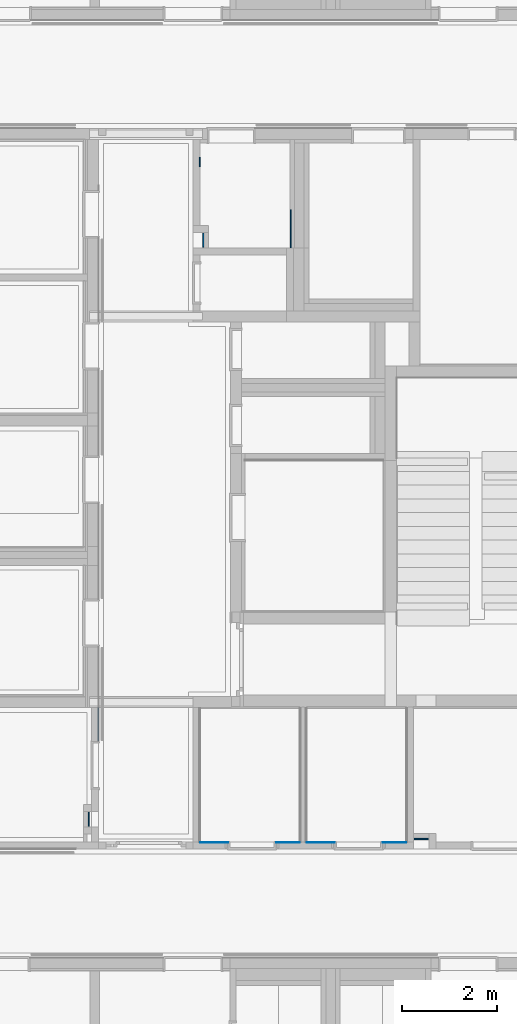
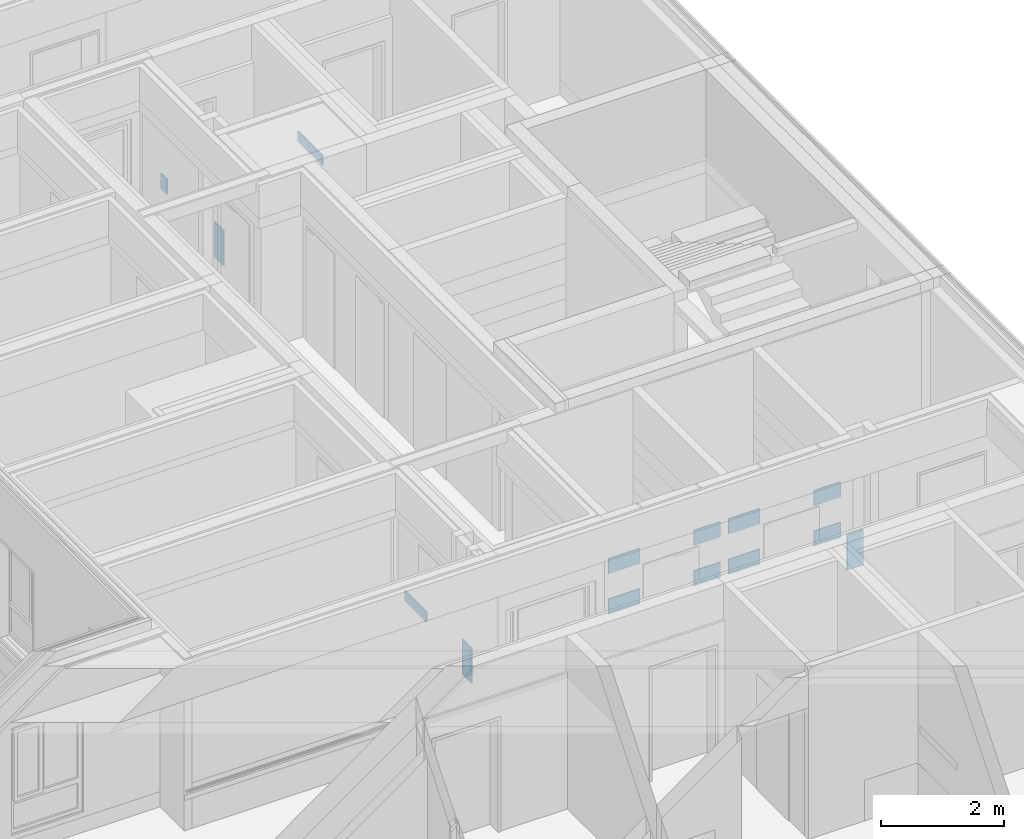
# One storey, part 157 of 207: 14 walls.
"""IFC4 building model written with IfcOpenShell, lengths in metres."""

from ifc_helpers import new_model, entity, si_unit, converted_unit, derived_unit, frame, origin, place, context, subcontext, project, spatial, faceted_brep, element, save


model = new_model("IFC4")

# Units and contexts
model_context = context("Model", 3, precision=1e-05, world=origin())
body_context = subcontext(model_context, "Body", "Model", "MODEL_VIEW")
ifc_project = project(units=[si_unit("LENGTHUNIT", "METRE"), si_unit("AREAUNIT", "SQUARE_METRE"), si_unit("VOLUMEUNIT", "CUBIC_METRE"), si_unit("MASSUNIT", "GRAM", prefix="KILO"), converted_unit("PLANEANGLEUNIT", "DEGREE", entity("IfcPlaneAngleMeasure", 0.0174532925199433), si_unit("PLANEANGLEUNIT", "RADIAN"), dimensions=[0, 0, 0, 0, 0, 0, 0]), derived_unit("THERMALTRANSMITTANCEUNIT", [(si_unit("POWERUNIT", "WATT"), 1), (si_unit("THERMODYNAMICTEMPERATUREUNIT", "KELVIN"), -1), (si_unit("LENGTHUNIT", "METRE"), -2)]), derived_unit("VOLUMETRICFLOWRATEUNIT", [(si_unit("LENGTHUNIT", "METRE"), 3), (converted_unit("TIMEUNIT", "hour", entity("IfcTimeMeasure", 3600.0), si_unit("TIMEUNIT", "SECOND"), dimensions=[0, 0, 1, 0, 0, 0, 0]), -1), (si_unit("LENGTHUNIT", "METRE"), -1)])], contexts=[model_context])

# Site, building, storey
site_placement = place(None, origin())
site = spatial("IfcSite", under=ifc_project, at=site_placement, Name="Psychiatrie Neubau Wunstorf", CompositionType="ELEMENT")
building_placement = place(site_placement, origin())
building = spatial("IfcBuilding", under=site, at=building_placement, Name="Neubau H2 Stationsgebäude", CompositionType="ELEMENT")
storey_placement = place(building_placement, frame((0.0, 0.0, -0.2)))
storey = spatial("IfcBuildingStorey", under=building, at=storey_placement, Name="H2 Ebene 0", CompositionType="ELEMENT", Elevation=-0.2)

# Walls
wall_1_placement = place(storey_placement, frame((98.2000002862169, 22.0290000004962, 1.26)))
element("IfcWall", 1, at=wall_1_placement, inside=storey, Name="WV 1.1", context=body_context, shape_type="Brep", body=[
    faceted_brep([(0.025, 0.2, 0.0), (0.0, 0.2, 0.0), (0.0, 0.0, 0.0), (0.025, 0.0, 0.0), (0.0, 0.2, 0.3), (0.025, 0.2, 0.3), (0.025, 0.0, 0.3), (0.0, 0.0, 0.3)], [[[0, 1, 2, 3]], [[4, 5, 6, 7]], [[1, 0, 5, 4]], [[2, 1, 4, 7]], [[3, 2, 7, 6]], [[0, 3, 6, 5]]], orient=[[False], [False], [False], [False], [False], [False]]),
])
wall_2_placement = place(storey_placement, frame((100.119993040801, 20.3150058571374, 2.2)))
element("IfcWall", 2, at=wall_2_placement, inside=storey, Name="WV 1.1", context=body_context, shape_type="Brep", body=[
    faceted_brep([(0.025, 0.8, 0.0), (0.0, 0.8, 0.0), (0.0, 0.0, 0.0), (0.025, 0.0, 0.0), (0.0, 0.8, 0.2), (0.025, 0.8, 0.2), (0.025, 0.0, 0.2), (0.0, 0.0, 0.2)], [[[0, 1, 2, 3]], [[4, 5, 6, 7]], [[1, 0, 5, 4]], [[2, 1, 4, 7]], [[3, 2, 7, 6]], [[0, 3, 6, 5]]], orient=[[False], [False], [False], [False], [False], [False]]),
])
wall_3_placement = place(storey_placement, frame((96.0574999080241, 9.91049989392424, 0.9)))
element("IfcWall", 3, at=wall_3_placement, inside=storey, Name="WV 1.1", context=body_context, shape_type="Brep", body=[
    faceted_brep([(0.0, 0.0, 0.0), (0.025, 0.0, 0.0), (0.025, 0.7, 0.0), (0.0, 0.7, 0.0), (0.025, 0.0, 0.2), (0.0, 0.0, 0.2), (0.0, 0.7, 0.2), (0.025, 0.7, 0.2)], [[[0, 1, 2, 3]], [[4, 5, 6, 7]], [[1, 0, 5, 4]], [[2, 1, 4, 7]], [[3, 2, 7, 6]], [[0, 3, 6, 5]]], orient=[[False], [False], [False], [False], [False], [False]]),
])
for number, where, name in (
    (4, (98.2749981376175, 20.3275044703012, 0.85), "WV 1.1"),
    (5, (95.8575000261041, 8.10749989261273, 0.85), "WV 1.1"),
):
    element("IfcWall", number, at=place(storey_placement, frame(where)), inside=storey, Name=name, context=body_context, shape_type="Brep", body=[
        faceted_brep([(0.025, 0.3, 0.0), (0.0, 0.3, 0.0), (0.0, 0.0, 0.0), (0.025, 0.0, 0.0), (0.0, 0.3, 0.7), (0.025, 0.3, 0.7), (0.025, 0.0, 0.7), (0.0, 0.0, 0.7)], [[[0, 1, 2, 3]], [[4, 5, 6, 7]], [[1, 0, 5, 4]], [[2, 1, 4, 7]], [[3, 2, 7, 6]], [[0, 3, 6, 5]]], orient=[[False], [False], [False], [False], [False], [False]]),
    ])
for number, where, name in (
    (6, (98.225, 7.75700025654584, 1.6), "WV 1.1"),
    (7, (98.225, 7.75700025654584, 2.4), "WV 1.1"),
):
    element("IfcWall", number, at=place(storey_placement, frame(where)), inside=storey, Name=name, context=body_context, shape_type="Brep", body=[
        faceted_brep([(0.59, 0.0, 0.0), (0.59, 0.018, 0.0), (0.0, 0.018, 0.0), (0.0, 0.0, 0.0), (0.59, 0.018, 0.3), (0.59, 0.0, 0.3), (0.0, 0.0, 0.3), (0.0, 0.018, 0.3)], [[[0, 1, 2, 3]], [[4, 5, 6, 7]], [[1, 0, 5, 4]], [[2, 1, 4, 7]], [[3, 2, 7, 6]], [[0, 3, 6, 5]]], orient=[[False], [False], [False], [False], [False], [False]]),
    ])
for number, where, name in (
    (8, (99.825, 7.75700025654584, 1.6), "WV 1.1"),
    (9, (99.825, 7.75700025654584, 2.4), "WV 1.1"),
):
    element("IfcWall", number, at=place(storey_placement, frame(where)), inside=storey, Name=name, context=body_context, shape_type="Brep", body=[
        faceted_brep([(0.5, 0.0, 0.0), (0.5, 0.018, 0.0), (0.0, 0.018, 0.0), (0.0, 0.0, 0.0), (0.5, 0.018, 0.3), (0.5, 0.0, 0.3), (0.0, 0.0, 0.3), (0.0, 0.018, 0.3)], [[[0, 1, 2, 3]], [[4, 5, 6, 7]], [[1, 0, 5, 4]], [[2, 1, 4, 7]], [[3, 2, 7, 6]], [[0, 3, 6, 5]]], orient=[[False], [False], [False], [False], [False], [False]]),
    ])
for number, where, name in (
    (10, (100.475, 7.75700025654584, 1.6), "WV 1.1"),
    (11, (100.475, 7.75700025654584, 2.4), "WV 1.1"),
):
    element("IfcWall", number, at=place(storey_placement, frame(where)), inside=storey, Name=name, context=body_context, shape_type="Brep", body=[
        faceted_brep([(0.59, 0.0, 0.0), (0.59, 0.018, 0.0), (0.0, 0.018, 0.0), (0.0, 0.0, 0.0), (0.59, 0.018, 0.3), (0.59, 0.0, 0.3), (0.0, 0.0, 0.3), (0.0, 0.018, 0.3)], [[[0, 1, 2, 3]], [[4, 5, 6, 7]], [[1, 0, 5, 4]], [[2, 1, 4, 7]], [[3, 2, 7, 6]], [[0, 3, 6, 5]]], orient=[[False], [False], [False], [False], [False], [False]]),
    ])
for number, where, name in (
    (12, (102.075, 7.75700025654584, 1.6), "WV 1.1"),
    (13, (102.075, 7.75700025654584, 2.4), "WV 1.1"),
):
    element("IfcWall", number, at=place(storey_placement, frame(where)), inside=storey, Name=name, context=body_context, shape_type="Brep", body=[
        faceted_brep([(0.5, 0.0, 0.0), (0.5, 0.018, 0.0), (0.0, 0.018, 0.0), (0.0, 0.0, 0.0), (0.5, 0.018, 0.3), (0.5, 0.0, 0.3), (0.0, 0.0, 0.3), (0.0, 0.018, 0.3)], [[[0, 1, 2, 3]], [[4, 5, 6, 7]], [[1, 0, 5, 4]], [[2, 1, 4, 7]], [[3, 2, 7, 6]], [[0, 3, 6, 5]]], orient=[[False], [False], [False], [False], [False], [False]]),
    ])
wall_4_placement = place(storey_placement, frame((102.7375, 7.82499989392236, 0.85)))
element("IfcWall", 14, at=wall_4_placement, inside=storey, Name="WV 1.1", context=body_context, shape_type="Brep", body=[
    faceted_brep([(0.3, 0.0, 0.0), (0.3, 0.025, 0.0), (0.0, 0.025, 0.0), (0.0, 0.0, 0.0), (0.3, 0.025, 0.7), (0.3, 0.0, 0.7), (0.0, 0.0, 0.7), (0.0, 0.025, 0.7)], [[[0, 1, 2, 3]], [[4, 5, 6, 7]], [[1, 0, 5, 4]], [[2, 1, 4, 7]], [[3, 2, 7, 6]], [[0, 3, 6, 5]]], orient=[[False], [False], [False], [False], [False], [False]]),
])

save(model, "model.ifc")
